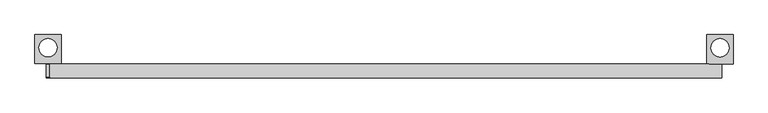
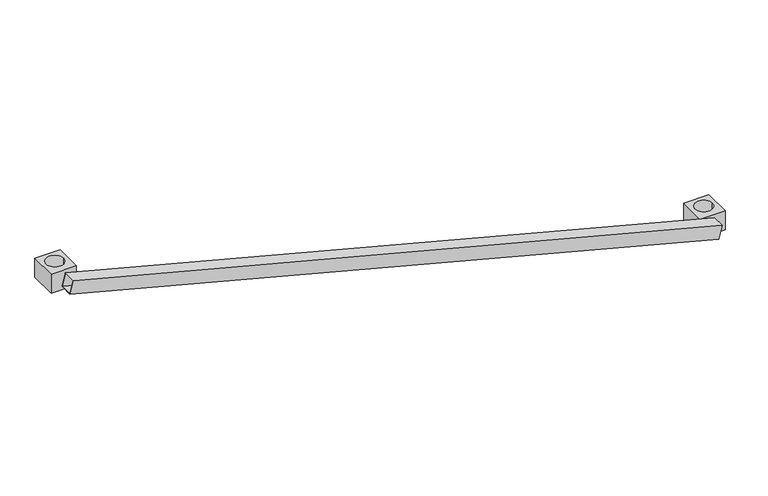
"""IFC4 building model written with IfcOpenShell, lengths in millimetres: proxy geometry, AK_アルバトロスAK伸縮斜材 : H0900×L1800."""

from ifc_helpers import new_model, si_unit, point, frame, frame_2d, origin, place, context, project, spatial, polyline, circle_curve, trimmed, segment, composite_curve, outline, extrude, source, transform, mapped, element, save


def generic_models_a7a6e0bf(model_context):
    return source(origin(), model_context, "Body", "SweptSolid", [
        extrude(outline(polyline([(0.0, 0.0), (0.0, -38.0), (-38.0, -38.0), (-38.0, 0.0), (0.0, 0.0)]), holes=[polyline([(-2.0, -2.0), (-36.0, -2.0), (-36.0, -36.0), (-2.0, -36.0), (-2.0, -2.0)])]), frame((4.7869272, 19.0, 18.3870968), z_axis=(-0.967741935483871, 0.0, 0.25194353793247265), x_axis=(0.25194353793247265, 0.0, 0.967741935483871)), (0.0, 0.0, 1.0), 1860.0),
        extrude(outline(polyline([(35.0, 96.8842695), (35.0, 19.0), (-35.0, 19.0), (-35.0, 96.8842695), (35.0, 96.8842695)]), holes=[composite_curve([segment(trimmed(circle_curve(frame_2d((0.0, 61.8842695)), 24.3), [point((24.3, 61.8842695))], [point((-24.3, 61.8842695))], True, "CARTESIAN"), True, "CONTINUOUS"), segment(trimmed(circle_curve(frame_2d((0.0, 61.8842695)), 24.3), [point((-24.3, 61.8842695))], [point((24.3, 61.8842695))], True, "CARTESIAN"), True, "CONTINUOUS")], self_intersect=False)]), frame((0.0, 0.0, -27.7559086), z_axis=(0.0, 0.0, 1.0), x_axis=(1.0, 0.0, 0.0)), (0.0, 0.0, 1.0), 55.5118171),
        extrude(outline(polyline([(-1765.0, 19.0), (-1835.0, 19.0), (-1835.0, 96.8842695), (-1765.0, 96.8842695), (-1765.0, 19.0)]), holes=[composite_curve([segment(trimmed(circle_curve(frame_2d((-1800.0, 61.8842695)), 24.3), [point((-1775.7, 61.8842695))], [point((-1824.3, 61.8842695))], True, "CARTESIAN"), True, "CONTINUOUS"), segment(trimmed(circle_curve(frame_2d((-1800.0, 61.8842695)), 24.3), [point((-1824.3, 61.8842695))], [point((-1775.7, 61.8842695))], True, "CARTESIAN"), True, "CONTINUOUS")], self_intersect=False)]), frame((0.0, 0.0, 440.859072), z_axis=(0.0, 0.0, 1.0), x_axis=(1.0, 0.0, 0.0)), (0.0, 0.0, 1.0), 55.5118171),
    ])


if __name__ == "__main__":
    model = new_model("IFC4")
    model_context = context("Model", 3, world=origin())
    ifc_project = project(units=[si_unit("LENGTHUNIT", "METRE", prefix="MILLI")], contexts=[model_context])
    site = spatial("IfcSite", under=ifc_project)
    building = spatial("IfcBuilding", under=site)
    placement = place(None, origin())
    generic_models_shape = generic_models_a7a6e0bf(model_context)
    element("IfcBuildingElementProxy", 1, Name="AK_アルバトロスAK伸縮斜材 : H0900×L1800", ObjectType="AK_アルバトロスAK伸縮斜材 : H0900×L1800", at=placement, inside=building, context=model_context, shape_type="MappedRepresentation", body=[
        mapped(generic_models_shape, transform((0.0, 0.0, 0.0), x_axis=(1.0, 0.0, 0.0), y_axis=(0.0, 1.0, 0.0), z_axis=(0.0, 0.0, 1.0))),
    ])
    save(model, "model.ifc")
